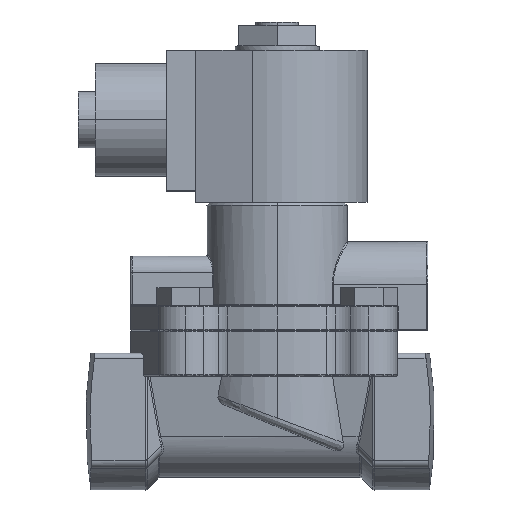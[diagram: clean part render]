
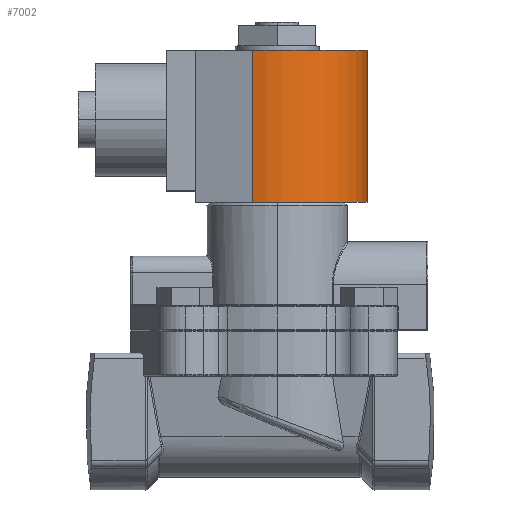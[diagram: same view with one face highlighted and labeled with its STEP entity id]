
A CAD part, top view. The second image highlights one B-rep face of the part: STEP entity #7002.
In plain terms, the highlighted cylindrical face has radius 20.32 mm (diameter 40.64 mm), a partial arc.
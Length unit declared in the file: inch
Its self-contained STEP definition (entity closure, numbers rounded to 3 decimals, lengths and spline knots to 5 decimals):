
#3 = EDGE_LOOP ( 'NONE', ( #5464, #11287, #5347, #11109 ) ) ;
#995 = CARTESIAN_POINT ( 'NONE',  ( 0., 2.5825, 0. ) ) ;
#1019 = VERTEX_POINT ( 'NONE', #13565 ) ;
#1369 = CARTESIAN_POINT ( 'NONE',  ( -0.22081, 1.2325, 0.76892 ) ) ;
#3363 = DIRECTION ( 'NONE',  ( 0., -1., 0. ) ) ;
#3401 = EDGE_CURVE ( 'NONE', #12722, #1019, #6136, .T. ) ;
#3710 = CARTESIAN_POINT ( 'NONE',  ( 0., 2.5825, 0. ) ) ;
#4649 = EDGE_CURVE ( 'NONE', #7635, #12722, #7046, .T. ) ;
#4698 = DIRECTION ( 'NONE',  ( 0., -1., 0. ) ) ;
#4699 = VECTOR ( 'NONE', #15015, 39.37008 ) ;
#5347 = ORIENTED_EDGE ( 'NONE', *, *, #8592, .T. ) ;
#5464 = ORIENTED_EDGE ( 'NONE', *, *, #3401, .F. ) ;
#5585 = CARTESIAN_POINT ( 'NONE',  ( -0.22081, 2.5825, 0.76892 ) ) ;
#6136 = LINE ( 'NONE', #7404, #9693 ) ;
#6333 = FACE_OUTER_BOUND ( 'NONE', #3, .T. ) ;
#6401 = CARTESIAN_POINT ( 'NONE',  ( 0.8, 2.5825, 0. ) ) ;
#6439 = DIRECTION ( 'NONE',  ( 0., 1., 0. ) ) ;
#6500 = DIRECTION ( 'NONE',  ( 0., 1., 0. ) ) ;
#7002 = ADVANCED_FACE ( 'Defeatured_1_3', ( #6333 ), #13330, .T. ) ;
#7046 = CIRCLE ( 'NONE', #8201, 0.8 ) ;
#7404 = CARTESIAN_POINT ( 'NONE',  ( 0.8, 2.5825, 0. ) ) ;
#7635 = VERTEX_POINT ( 'NONE', #5585 ) ;
#8201 = AXIS2_PLACEMENT_3D ( 'NONE', #995, #6500, #17480 ) ;
#8592 = EDGE_CURVE ( 'NONE', #7635, #15409, #17824, .T. ) ;
#9021 = AXIS2_PLACEMENT_3D ( 'NONE', #3710, #3363, #16043 ) ;
#9693 = VECTOR ( 'NONE', #4698, 39.37008 ) ;
#10493 = DIRECTION ( 'NONE',  ( -1., 0., 0. ) ) ;
#10549 = EDGE_CURVE ( 'NONE', #15409, #1019, #13784, .T. ) ;
#11109 = ORIENTED_EDGE ( 'NONE', *, *, #10549, .T. ) ;
#11287 = ORIENTED_EDGE ( 'NONE', *, *, #4649, .F. ) ;
#12722 = VERTEX_POINT ( 'NONE', #6401 ) ;
#13172 = CARTESIAN_POINT ( 'NONE',  ( 0., 1.2325, 0. ) ) ;
#13330 = CYLINDRICAL_SURFACE ( 'NONE', #9021, 0.8 ) ;
#13565 = CARTESIAN_POINT ( 'NONE',  ( 0.8, 1.2325, 0. ) ) ;
#13784 = CIRCLE ( 'NONE', #16089, 0.8 ) ;
#14932 = CARTESIAN_POINT ( 'NONE',  ( -0.22081, 2.5825, 0.76892 ) ) ;
#15015 = DIRECTION ( 'NONE',  ( 0., -1., 0. ) ) ;
#15409 = VERTEX_POINT ( 'NONE', #1369 ) ;
#16043 = DIRECTION ( 'NONE',  ( 1., 0., 0. ) ) ;
#16089 = AXIS2_PLACEMENT_3D ( 'NONE', #13172, #6439, #10493 ) ;
#17480 = DIRECTION ( 'NONE',  ( -1., 0., 0. ) ) ;
#17824 = LINE ( 'NONE', #14932, #4699 ) ;
